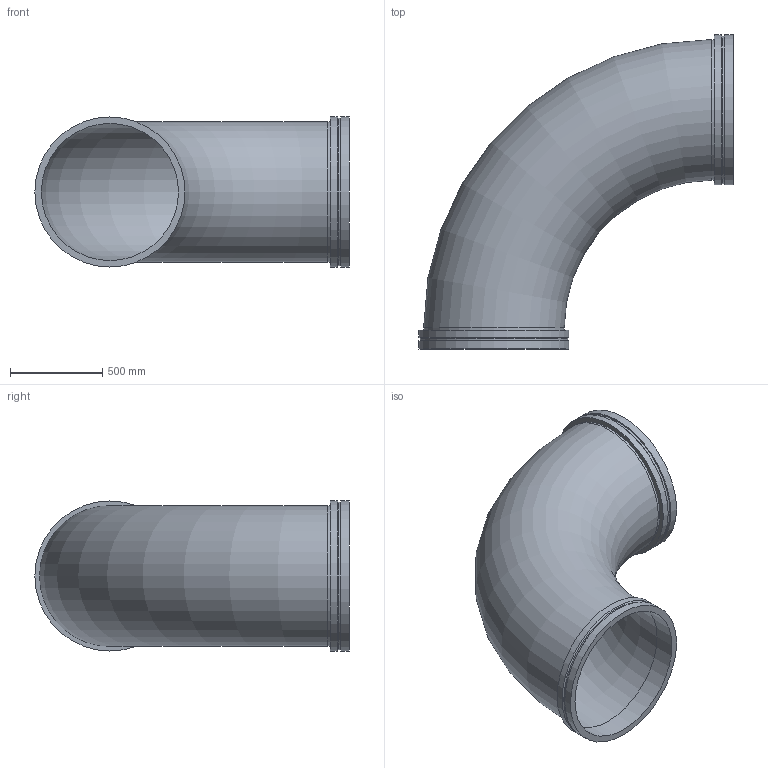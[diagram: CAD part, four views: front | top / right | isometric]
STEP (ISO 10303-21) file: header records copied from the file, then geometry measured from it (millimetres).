
FILE_DESCRIPTION(/* description */ ('VIC 90 DEG ELBOW No W100 VR','CAx-IF Rec.Pracs.---Representation and Presentation of Product Manufacturing Information (PMI)---4.0---2014-10-13'),/* implementation_level */ '2;1');
FILE_NAME(/* name */ 'C:\Users\kkamble\AppData\Roaming\Autodesk\ApplicationPlugins\Back Up\Victaulic_Vic-Ring_Elbow 90 Deg LR_No W100 VR (AGR)\Victaulic_Vic-Ring_Elbow 90 Deg LR_No W100 VR (AGR)_30 (750).stp',/* time_stamp */ '2020-09-10T11:44:11+05:00',/* author */ ('cps_temp'),/* organization */ ('Victaulic'),/* preprocessor_version */ 'ST-DEVELOPER v17.2',/* originating_system */ 'Autodesk Inventor 2019',/* authorisation */ '');
FILE_SCHEMA (('AP242_MANAGED_MODEL_BASED_3D_ENGINEERING_MIM_LF { 1 0 10303 442 1 1 4 }'));
Length unit declared in the file: inch
Products named in the file (1): W100 VR-30.0
Bounding box: 1701.8 x 1701.8 x 812.8 mm (x, y, z)
Volume: 59079947.6 mm3; surface area: 10233403.5 mm2
Topology: 1 solids, 1 shells, 20 faces, 51 edges, 37 vertices
Faces by surface type: cylinder 10, plane 6, cone 2, torus 2
Full cylindrical faces by diameter (mm): 742.95 x2, 762 x2, 798.322 x2, 812.8 x4
Entity records: 802 total; most frequent: DIRECTION 158, CARTESIAN_POINT 126, ORIENTED_EDGE 102, AXIS2_PLACEMENT_3D 73, EDGE_CURVE 51, CIRCLE 39, VERTEX_POINT 37, EDGE_LOOP 26
